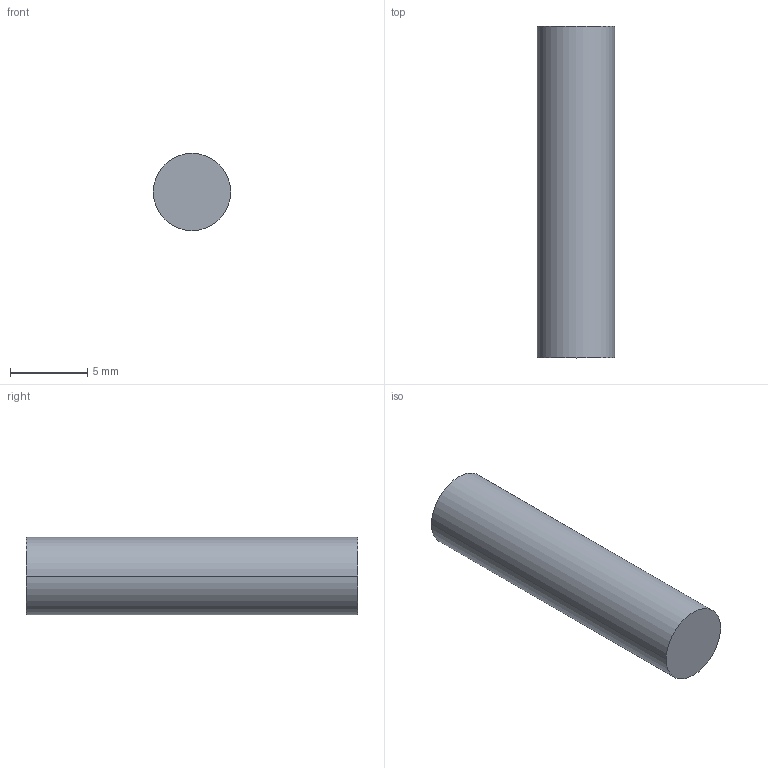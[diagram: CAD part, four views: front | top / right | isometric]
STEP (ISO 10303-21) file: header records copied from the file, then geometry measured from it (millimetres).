
FILE_DESCRIPTION(('CATIA V5 STEP Exchange'),'2;1');
FILE_NAME('C:\Users\user\Documents\Jakob\BAC - Arbeit 1\CAD Modell\CAD-Modell-Step files\Platzhalter\5mm rod.stp','2018-12-13T14:06:06+00:00',('none'),('none'),'Version 5-6 Release 2012','CATIA V5 STEP AP203','none');
FILE_SCHEMA(('CONFIG_CONTROL_DESIGN'));
Length unit declared in the file: millimetre
Products named in the file (1): 5mm rod
Bounding box: 5 x 21.5 x 5 mm (x, y, z)
Volume: 422.2 mm3; surface area: 377 mm2
Topology: 1 solids, 1 shells, 4 faces, 6 edges, 4 vertices
Faces by surface type: cylinder 2, plane 2
Entity records: 127 total; most frequent: CARTESIAN_POINT 14, DIRECTION 12, ORIENTED_EDGE 12, AXIS2_PLACEMENT_3D 8, EDGE_CURVE 6, ADVANCED_FACE 4, CC_DESIGN_PERSON_AND_ORGANIZATION_ASSIGNMENT 4, PERSON_AND_ORGANIZATION_ROLE 4
